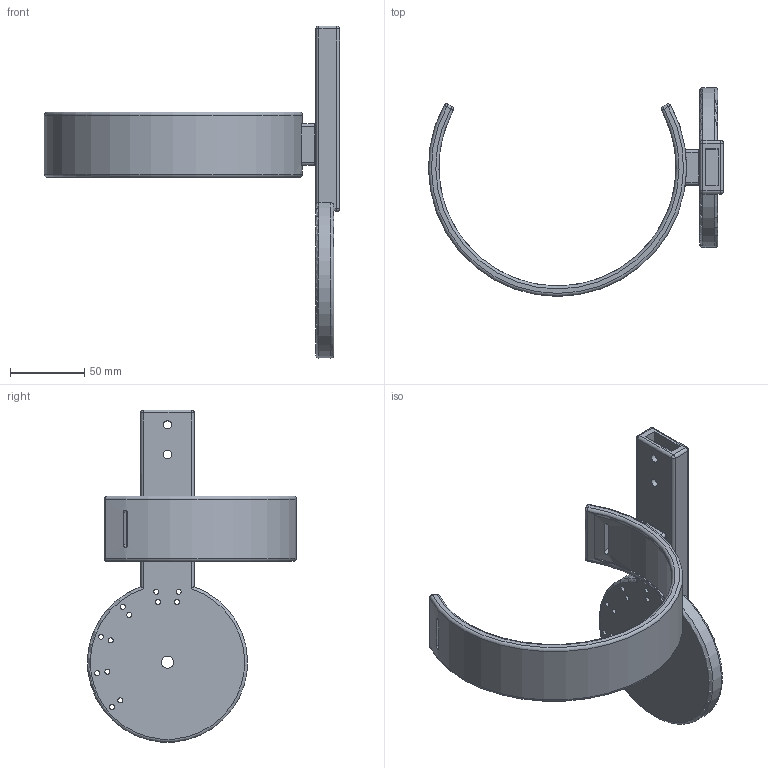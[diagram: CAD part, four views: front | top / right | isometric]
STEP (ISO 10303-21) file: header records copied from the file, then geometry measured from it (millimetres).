
FILE_DESCRIPTION(('Open CASCADE Model'),'2;1');
FILE_NAME('Open CASCADE Shape Model','2026-11-04T08:45:10',('Author'),( 'Open CASCADE'),'Open CASCADE STEP processor 7.8','Open CASCADE 7.8' ,'Unknown');
FILE_SCHEMA(('AUTOMOTIVE_DESIGN { 1 0 10303 214 1 1 1 1 }'));
Length unit declared in the file: millimetre
Products named in the file (1): Open CASCADE STEP translator 7.8 1
Bounding box: 198.99 x 140.95 x 223.81 mm (x, y, z)
Volume: 252893.1 mm3; surface area: 78309.2 mm2
Topology: 1 solids, 1 shells, 104 faces, 266 edges, 148 vertices
Faces by surface type: cylinder 52, plane 28, sphere 18, torus 6
Full cylindrical faces by diameter (mm): 3.4 x12, 5.5 x4, 8.2 x1
Entity records: 7541 total; most frequent: CARTESIAN_POINT 2528, DIRECTION 926, ORIENTED_EDGE 496, PCURVE 496, DEFINITIONAL_REPRESENTATION 496, LINE 440, VECTOR 440, EDGE_CURVE 248
